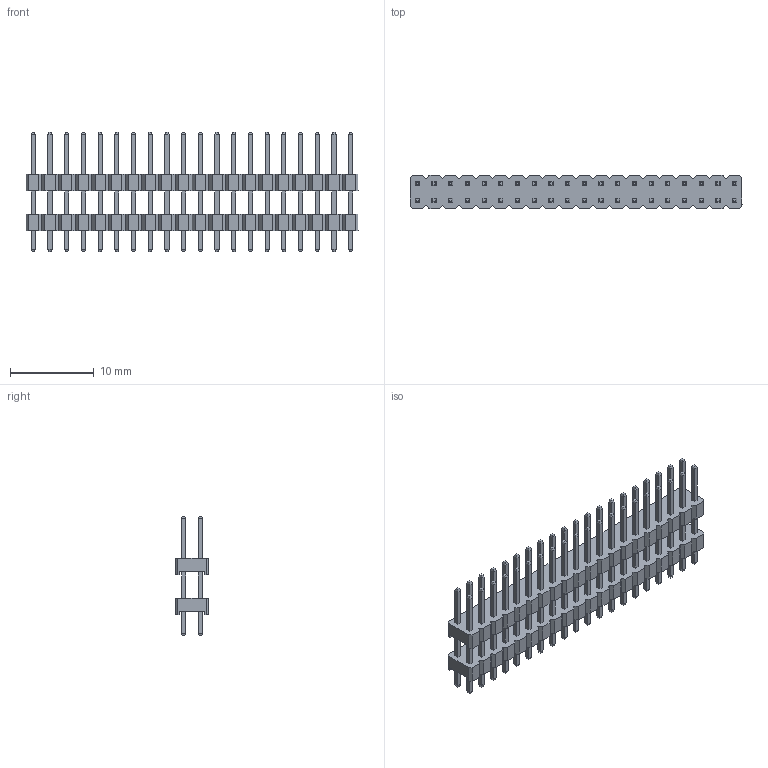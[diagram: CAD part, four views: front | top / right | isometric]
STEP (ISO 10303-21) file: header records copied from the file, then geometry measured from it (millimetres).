
FILE_DESCRIPTION (( 'STEP AP214' ), '1' );
FILE_NAME ('2114-2X20G00S-2.5-5-14.3B.STEP', '2018-11-23T03:15:25', ( 'ADMIN' ), ( '' ), 'SwSTEP 2.0', 'SolidWorks 2011', '' );
FILE_SCHEMA (( 'AUTOMOTIVE_DESIGN' ));
Length unit declared in the file: millimetre
Products named in the file (3): P-2114-2X16G00S-2.5-5-14.3B; H-2114-2X20G00S-2.8-4-14.3B; 2114-2X20G00S-2.5-5-14.3B
Assembly tree (42 placements, depth 2):
  2114-2X20G00S-2.5-5-14.3B
    P-2114-2X16G00S-2.5-5-14.3B  x40
    H-2114-2X20G00S-2.8-4-14.3B  x2
Bounding box: 39.75 x 4 x 14.3 mm (x, y, z)
Volume: 622 mm3; surface area: 2429.4 mm2
Topology: 42 solids, 42 shells, 1212 faces, 3064 edges, 1936 vertices
Faces by surface type: plane 1212
Entity records: 15236 total; most frequent: CARTESIAN_POINT 2049, ORIENTED_EDGE 2000, DIRECTION 1770, EDGE_CURVE 1000, LINE 1000, VECTOR 1000, VERTEX_POINT 664, EDGE_LOOP 420
